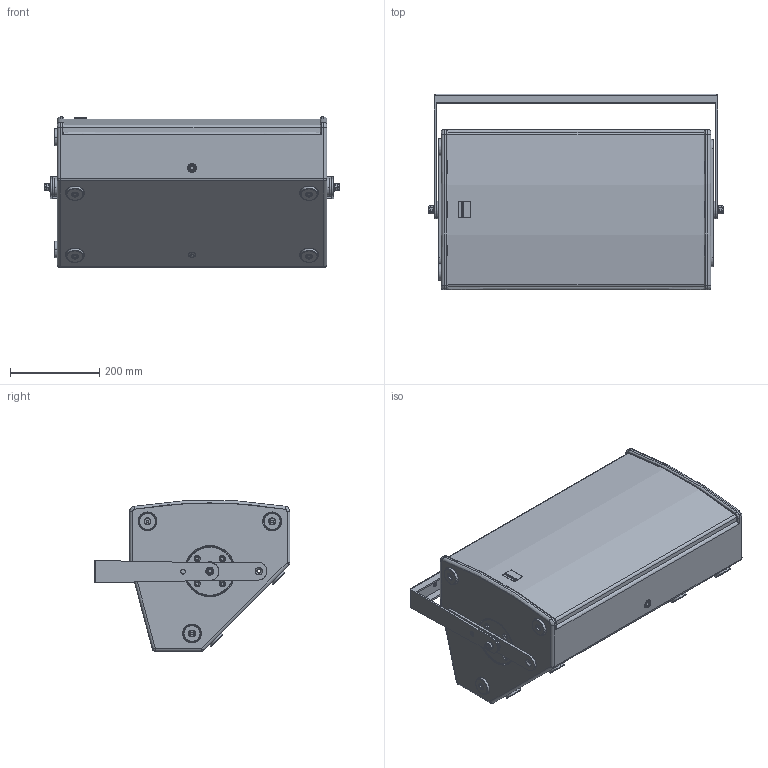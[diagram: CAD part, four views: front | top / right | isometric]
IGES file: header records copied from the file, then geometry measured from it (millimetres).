
Start section: SolidWorks IGES file using analytic representation for surfaces
Global section: file name: C:\Dokumente und Einstellungen\PC_Fabian\Desktop\3d_Dateien_Homepage\A-Serie\SEEBURG_A6_Bracket-hor.IGS; native system: SolidWorks 2009; preprocessor: SolidWorks 2009; author: PC_Fabian; date: 120928.095955; units: millimetre
Bounding box: 662.47 x 440 x 338.41 mm (x, y, z)
Surface area: 2475270.2 mm2 (no closed solid volume)
Topology: 0 solids, 0 shells, 887 faces, 12971 edges, 12961 vertices
Faces by surface type: revolution 465, bspline 422
